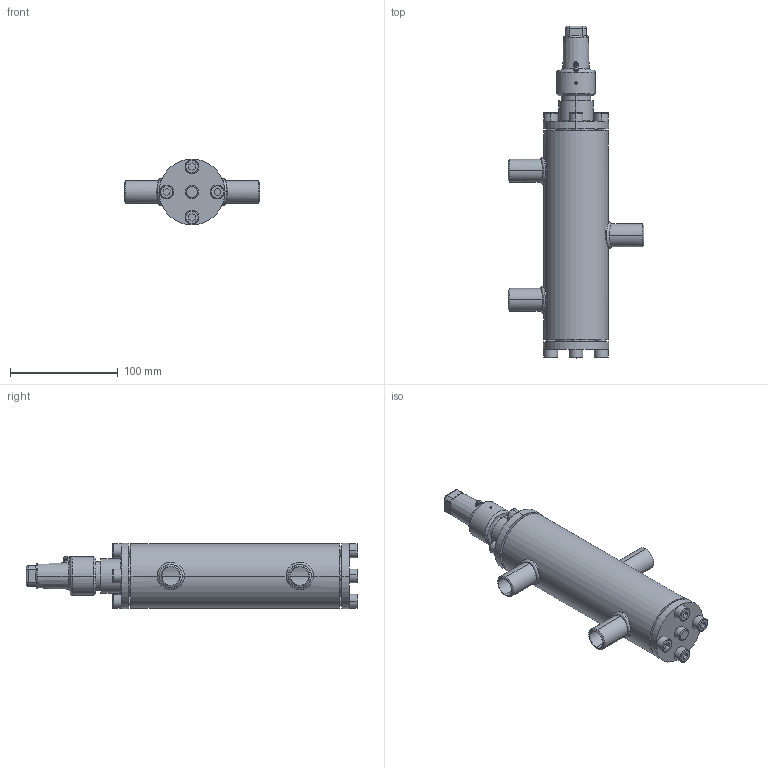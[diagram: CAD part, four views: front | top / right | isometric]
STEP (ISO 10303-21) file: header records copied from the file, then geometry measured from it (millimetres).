
FILE_DESCRIPTION (( 'STEP AP214' ), '1' );
FILE_NAME ('WVR24000D10-DN015_R1_PS40.STEP', '2010-09-08T08:19:04', ( 'Eckhard Grams' ), ( 'AWP Kälte Klima Armaturen GmbH' ), 'SwSTEP 2.0', 'SolidWorks 2002296', '' );
FILE_SCHEMA (( 'AUTOMOTIVE_DESIGN' ));
Length unit declared in the file: millimetre
Products named in the file (12): WVR24000D10-DN015_R1_PS40; Geh,kpl24000E10_DN15_R1_PS40_Standard; Gehäuse24000E10-DN15_R1_PS40_Standard; Rohrstutzen-24000E10-DN15_R1_Standard; Schw-24000E10-DN15_Standard; AVR26300K10_Deck+Schr-DN10-20_Standard; Deckel26300K10-DN10-20_Standard; Zylinderschraube-DIN912_M 8x  16; Kappe 96300E10_DN6-20 (M27x2)_Standard; WVB-R23000K10_Deck+Schr-DN10-20_Standard; Deckel24000E10-DN10-20_Standard; Zylinderschraube-DIN912_M 8x  25
Assembly tree (21 placements, depth 3):
  WVR24000D10-DN015_R1_PS40
    Geh,kpl24000E10_DN15_R1_PS40_Standard
      Rohrstutzen-24000E10-DN15_R1_Standard  x3
      Schw-24000E10-DN15_Standard  x3
      Gehäuse24000E10-DN15_R1_PS40_Standard
    AVR26300K10_Deck+Schr-DN10-20_Standard
      Zylinderschraube-DIN912_M 8x  16  x4
      Deckel26300K10-DN10-20_Standard
    WVB-R23000K10_Deck+Schr-DN10-20_Standard
      Zylinderschraube-DIN912_M 8x  25  x4
      Deckel24000E10-DN10-20_Standard
    Kappe 96300E10_DN6-20 (M27x2)_Standard
Bounding box: 126 x 308.5 x 61 mm (x, y, z)
Volume: 494972.5 mm3; surface area: 120982.8 mm2
Topology: 18 solids, 18 shells, 402 faces, 911 edges, 571 vertices
Faces by surface type: cylinder 170, plane 128, cone 41, torus 41, bspline 22
Entity records: 21512 total; most frequent: CARTESIAN_POINT 14561, DIRECTION 1307, ORIENTED_EDGE 1186, EDGE_CURVE 593, AXIS2_PLACEMENT_3D 551, VERTEX_POINT 371, EDGE_LOOP 306, CIRCLE 282
